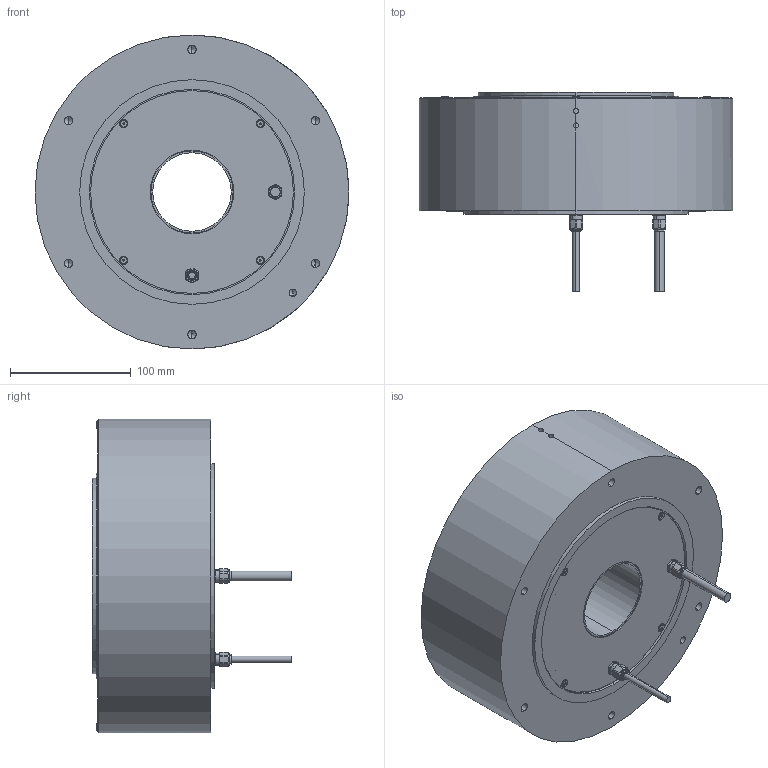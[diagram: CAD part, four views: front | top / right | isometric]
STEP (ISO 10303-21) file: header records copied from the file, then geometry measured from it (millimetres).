
FILE_DESCRIPTION (( 'STEP AP214' ), '1' );
FILE_NAME ('ND250-95-LS(INC).step', '2025-03-10T02:26:20', ( '' ), ( '' ), 'SwSTEP 2.0', 'SolidWorks 2024', '' );
FILE_SCHEMA (( 'AUTOMOTIVE_DESIGN' ));
Length unit declared in the file: millimetre
Products named in the file (1): ND250-95-LS(INC)
Bounding box: 260 x 164.8 x 260 mm (x, y, z)
Volume: 1676662.1 mm3; surface area: 410982.1 mm2
Topology: 18 solids, 18 shells, 637 faces, 1626 edges, 1010 vertices
Faces by surface type: cylinder 363, cone 128, plane 92, torus 34, sphere 20
Entity records: 20919 total; most frequent: CARTESIAN_POINT 5482, DIRECTION 3273, ORIENTED_EDGE 3124, EDGE_CURVE 1562, AXIS2_PLACEMENT_3D 1357, VERTEX_POINT 1010, EDGE_LOOP 734, CIRCLE 719
